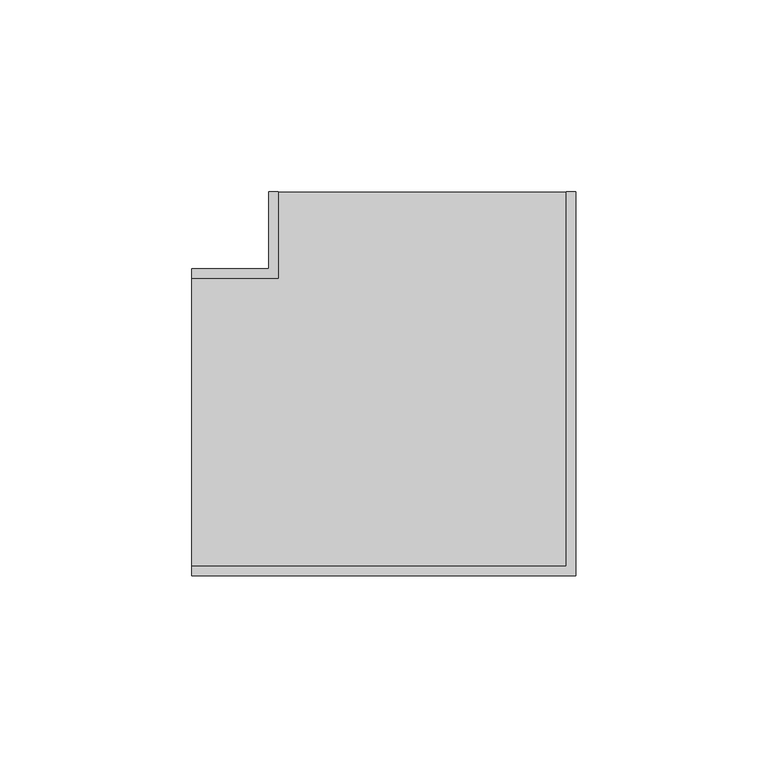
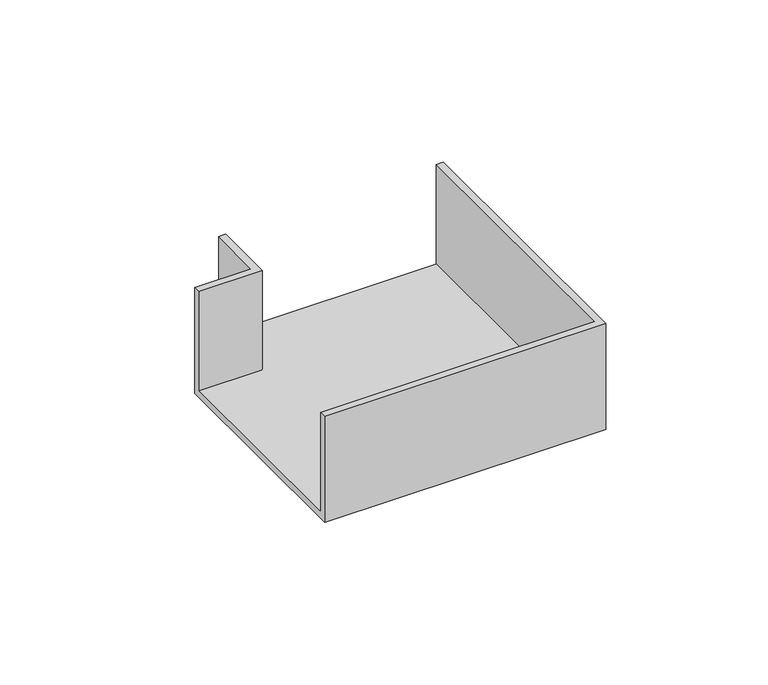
"""IFC4 building model written with IfcOpenShell, lengths in millimetres: cable carrier fitting geometry, КНС_УголПлоский NPAN_ILC_DKC : Угол плоский NPAN_DKC."""

import ifcopenshell
import ifcopenshell.guid

model = None  # the IFC model being written
_history = None  # IfcOwnerHistory: only IFC2X3 demands one
_inside = {}  # id of a spatial element -> (the spatial element, [elements in it])
_under = {}  # id of a project, library or spatial element -> (it, [spatial elements below it])
_declared = {}  # id of a project -> (the project, [libraries it declares])
_typed = {}  # id of a type object -> (the type object, [elements of that type])
_made_of = {}  # id of a material, layer set ... -> (it, [elements and type objects made of it])


def new_model(schema):
    """Start an empty IFC model of exactly this schema.

    Asked for "IFC4X3", IfcOpenShell would pick the latest addendum, in which some entities
    have other attributes; the version numbers below select the first issue.
    IFC2X3 requires an IfcOwnerHistory on every rooted entity: one is made here for all.
    """
    global model, _history
    if schema == "IFC4X3":
        model = ifcopenshell.file(schema_version=(4, 3, 0, 0))
    else:
        model = ifcopenshell.file(schema=schema)
    _inside.clear()
    _under.clear()
    _declared.clear()
    _typed.clear()
    _made_of.clear()
    _history = None
    if model.schema == "IFC2X3":
        org = make("IfcOrganization", Name="unknown")
        user = make(
            "IfcPersonAndOrganization",
            ThePerson=make("IfcPerson", FamilyName="unknown"),
            TheOrganization=org,
        )
        app = make(
            "IfcApplication",
            ApplicationDeveloper=org,
            Version="unknown",
            ApplicationFullName="unknown",
            ApplicationIdentifier="unknown",
        )
        _history = make(
            "IfcOwnerHistory",
            OwningUser=user,
            OwningApplication=app,
            ChangeAction="ADDED",
            CreationDate=0,
        )
    return model


def make(cls, **values):
    """One entity of the class cls with the attributes given. An attribute that is None is left unset."""
    return model.create_entity(
        cls, **{name: value for name, value in values.items() if value is not None}
    )


def rooted(cls, **values):
    """An entity with a GlobalId (a new one), such as an element, a storey or a relation."""
    return make(cls, GlobalId=ifcopenshell.guid.new(), OwnerHistory=_history, **values)


def si_unit(unit_type, name, prefix=None):
    """IfcSIUnit, for example si_unit("LENGTHUNIT", "METRE", prefix="MILLI")."""
    return make("IfcSIUnit", UnitType=unit_type, Prefix=prefix, Name=name)


def assignment(units):
    """IfcUnitAssignment: the units of a project."""
    return None if units is None else make("IfcUnitAssignment", Units=units)


def point(xyz):
    """IfcCartesianPoint."""
    return None if xyz is None else make("IfcCartesianPoint", Coordinates=xyz)


def direction(xyz):
    """IfcDirection."""
    return None if xyz is None else make("IfcDirection", DirectionRatios=xyz)


def frame(location, z_axis=None, x_axis=None):
    """IfcAxis2Placement3D, a coordinate frame: its origin and axes. An axis left out is left unset."""
    return make(
        "IfcAxis2Placement3D",
        Location=point(location),
        Axis=direction(z_axis),
        RefDirection=direction(x_axis),
    )


def origin():
    """The frame at (0, 0, 0) with its axes left unset."""
    return frame((0.0, 0.0, 0.0))


def place(relative_to, where):
    """IfcLocalPlacement: puts the frame where relative to a parent placement (None: the world)."""
    return make(
        "IfcLocalPlacement", PlacementRelTo=relative_to, RelativePlacement=where
    )


def context(
    kind, dimensions, precision=None, world=None, true_north=None, identifier=None
):
    """IfcGeometricRepresentationContext, for example the 3D "Model" context."""
    return make(
        "IfcGeometricRepresentationContext",
        ContextIdentifier=identifier,
        ContextType=kind,
        CoordinateSpaceDimension=dimensions,
        Precision=precision,
        WorldCoordinateSystem=world,
        TrueNorth=true_north,
    )


def project(units=None, contexts=None):
    """IfcProject with its units and contexts."""
    return rooted(
        "IfcProject",
        Name="project",
        RepresentationContexts=contexts,
        UnitsInContext=assignment(units),
    )


def spatial(cls, under=None, at=None, **own):
    """A site, building, storey or space (cls), placed at a placement, below another one or the project."""
    s = rooted(cls, ObjectPlacement=at, **own)
    if under is not None:
        _under.setdefault(under.id(), (under, []))[1].append(s)
    return s


def faces_of(points, faces, orient=None, outer=None):
    """IfcFace entities. A face is a list of loops; a loop is a list of indices into points, from 0.

    orient and outer hold one flag for each loop. By default every Orientation is true, the
    first loop of a face is its IfcFaceOuterBound and the others are IfcFaceBound.
    """
    made = []
    for i, loops in enumerate(faces):
        bounds = []
        for j, loop in enumerate(loops):
            is_outer = j == 0 if outer is None else outer[i][j]
            bounds.append(
                make(
                    "IfcFaceOuterBound" if is_outer else "IfcFaceBound",
                    Bound=make("IfcPolyLoop", Polygon=[points[k] for k in loop]),
                    Orientation=True if orient is None else orient[i][j],
                )
            )
        made.append(make("IfcFace", Bounds=bounds))
    return made


def faceted_brep(points, faces, orient=None, outer=None, voids=None):
    """IfcFacetedBrep: a solid bounded by flat faces; with voids (closed shells), ...WithVoids."""
    shared = [point(p) for p in points]
    hull = make("IfcClosedShell", CfsFaces=faces_of(shared, faces, orient, outer))
    if voids is None:
        return make("IfcFacetedBrep", Outer=hull)
    return make(
        "IfcFacetedBrepWithVoids",
        Outer=hull,
        Voids=[
            make(cls, CfsFaces=faces_of(shared, fs, o, b)) for cls, fs, o, b in voids
        ],
    )


def shape(context_of_items, identifier, shape_type, items):
    """IfcShapeRepresentation: the items that make up one representation, for example the "Body"."""
    return make(
        "IfcShapeRepresentation",
        ContextOfItems=context_of_items,
        RepresentationIdentifier=identifier,
        RepresentationType=shape_type,
        Items=items,
    )


def source(mapping_origin, context_of_items, identifier, shape_type, items):
    """IfcRepresentationMap: a shape defined once, which mapped items show again and again."""
    return make(
        "IfcRepresentationMap",
        MappingOrigin=mapping_origin,
        MappedRepresentation=shape(context_of_items, identifier, shape_type, items),
    )


def transform(
    local_origin,
    x_axis=None,
    y_axis=None,
    z_axis=None,
    scale=None,
    scale2=None,
    scale3=None,
    uniform=True,
):
    """IfcCartesianTransformationOperator3D, or its non-uniform kind. x_axis, y_axis, z_axis: its Axis1, 2, 3."""
    if uniform:
        return make(
            "IfcCartesianTransformationOperator3D",
            Axis1=direction(x_axis),
            Axis2=direction(y_axis),
            LocalOrigin=point(local_origin),
            Scale=scale,
            Axis3=direction(z_axis),
        )
    return make(
        "IfcCartesianTransformationOperator3DnonUniform",
        Axis1=direction(x_axis),
        Axis2=direction(y_axis),
        LocalOrigin=point(local_origin),
        Scale=scale,
        Axis3=direction(z_axis),
        Scale2=scale2,
        Scale3=scale3,
    )


def mapped(mapping_source, mapping_target):
    """IfcMappedItem: shows the shape of a source again, moved by a transform."""
    return make(
        "IfcMappedItem", MappingSource=mapping_source, MappingTarget=mapping_target
    )


def made_of(thing, what):
    """Note that an element or type object is made of a material, layer set ...; save() writes the relation."""
    if what is not None:
        _made_of.setdefault(what.id(), (what, []))[1].append(thing)
    return thing


def element(
    cls,
    number,
    at=None,
    inside=None,
    cuts=None,
    type_object=None,
    material=None,
    context=None,
    identifier="Body",
    shape_type=None,
    held_by="IfcProductDefinitionShape",
    body=None,
    shapes=None,
    **own,
):
    """One element of the class cls, such as IfcWall. Its Tag is "e" and its number.

    at: its placement. inside: the storey or other place that contains it. cuts: it is an
    opening in that element (IfcRelVoidsElement). A single representation is given by context,
    identifier, shape_type and body (its items); several are given by shapes. held_by: the class
    of the entity that holds the representations. save() writes the other relations.
    """
    e = rooted(cls, Tag="e%d" % number, ObjectPlacement=at, **own)
    if body is not None:
        shapes = [shape(context, identifier, shape_type, body)]
    if shapes is not None:
        e.Representation = make(held_by, Representations=shapes)
    if inside is not None:
        _inside.setdefault(inside.id(), (inside, []))[1].append(e)
    if cuts is not None:
        rooted(
            "IfcRelVoidsElement", RelatingBuildingElement=cuts, RelatedOpeningElement=e
        )
    if type_object is not None:
        _typed.setdefault(type_object.id(), (type_object, []))[1].append(e)
    return made_of(e, material)


def aggregate(whole, parts):
    """IfcRelAggregates: a whole, such as a stair, and the parts it consists of."""
    return rooted("IfcRelAggregates", RelatingObject=whole, RelatedObjects=parts)


def save(model, path):
    """Write the relations noted so far, then the file.

    IfcRelAggregates (storeys below a building ...), IfcRelContainedInSpatialStructure (elements
    in a storey), IfcRelDefinesByType, IfcRelAssociatesMaterial and IfcRelDeclares: one each for
    every whole, place, type object, material and project.
    """
    for whole, parts in _under.values():
        aggregate(whole, parts)
    for where, things in _inside.values():
        rooted(
            "IfcRelContainedInSpatialStructure",
            RelatedElements=things,
            RelatingStructure=where,
        )
    for kind, things in _typed.values():
        rooted("IfcRelDefinesByType", RelatedObjects=things, RelatingType=kind)
    for what, things in _made_of.values():
        rooted("IfcRelAssociatesMaterial", RelatedObjects=things, RelatingMaterial=what)
    for by, libraries in _declared.values():
        rooted("IfcRelDeclares", RelatingContext=by, RelatedDefinitions=libraries)
    model.write(path)


def cable_carrier_fitting_b300afac(model_context):
    return source(origin(), model_context, "Body", "Brep", [
        faceted_brep([(-60.0, 40.0, -20.0), (-60.0, -40.0, -20.0), (-60.0, -40.0, 20.0), (-60.0, -37.5, 20.0), (-60.0, -37.5, -17.5), (-60.0, 37.5, -17.5), (-60.0, 37.5, 20.0), (-60.0, 40.0, 20.0), (-40.0, 40.0, -20.0), (-40.0, 60.0, -20.0), (40.0, 60.0, -20.0), (40.0, -40.0, -20.0), (40.0, -40.0, 20.0), (40.0, 60.0, 20.0), (37.5, 60.0, 20.0), (37.5, -37.5, 20.0), (37.5, -37.5, -17.5), (37.5, 60.0, -17.5), (-37.5, 60.0, -17.5), (-37.5, 37.5, -17.5), (-37.5, 37.5, 20.0), (-37.5, 60.0, 20.0), (-40.0, 60.0, 20.0), (-40.0, 40.0, 20.0)], [[[0, 1, 2, 3, 4, 5, 6, 7]], [[1, 0, 8, 9, 10, 11]], [[2, 1, 11, 12]], [[3, 2, 12, 13, 14, 15]], [[4, 3, 15, 16]], [[5, 4, 16, 17, 18, 19]], [[6, 5, 19, 20]], [[7, 6, 20, 21, 22, 23]], [[0, 7, 23, 8]], [[9, 22, 21, 18, 17, 14, 13, 10]], [[12, 11, 10, 13]], [[16, 15, 14, 17]], [[20, 19, 18, 21]], [[8, 23, 22, 9]]]),
    ])


if __name__ == "__main__":
    model = new_model("IFC4")
    model_context = context("Model", 3, world=origin())
    ifc_project = project(units=[si_unit("LENGTHUNIT", "METRE", prefix="MILLI")], contexts=[model_context])
    site = spatial("IfcSite", under=ifc_project)
    building = spatial("IfcBuilding", under=site)
    placement = place(None, origin())
    cable_carrier_fitting_shape = cable_carrier_fitting_b300afac(model_context)
    element("IfcCableCarrierFitting", 1, ObjectType="КНС_УголПлоский NPAN_ILC_DKC : Угол плоский NPAN_DKC", at=placement, inside=building, context=model_context, shape_type="MappedRepresentation", body=[
        mapped(cable_carrier_fitting_shape, transform((0.0, 0.0, 0.0), x_axis=(1.0, 0.0, 0.0), y_axis=(0.0, 1.0, 0.0), z_axis=(0.0, 0.0, 1.0))),
    ])
    save(model, "model.ifc")
